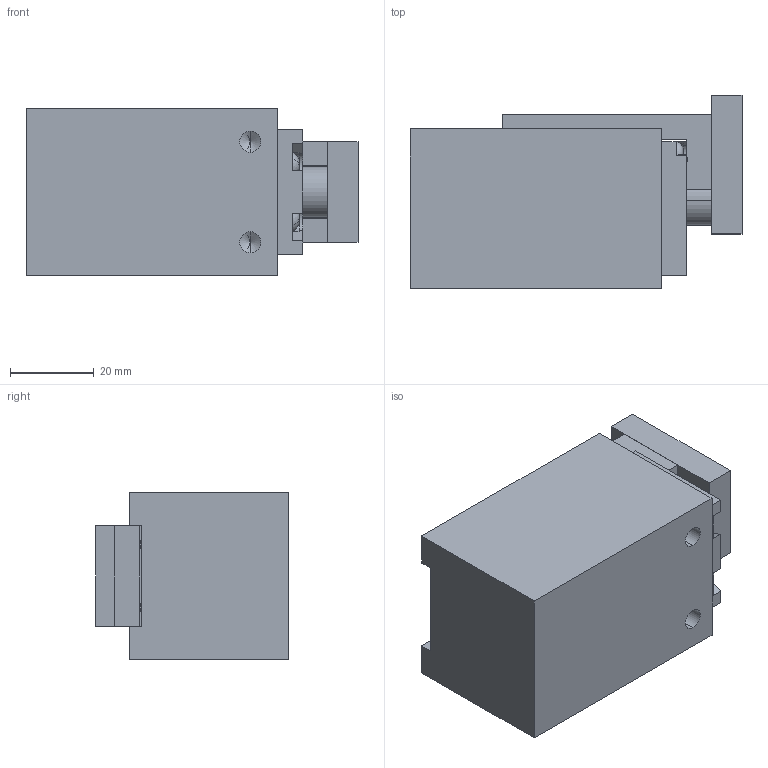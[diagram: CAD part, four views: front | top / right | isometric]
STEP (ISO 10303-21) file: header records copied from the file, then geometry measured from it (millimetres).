
FILE_DESCRIPTION (( 'STEP AP203' ), '1' );
FILE_NAME ('DBSQ-65_Eingefahren.STEP', '2018-05-09T15:29:42', ( '' ), ( '' ), 'SwSTEP 2.0', 'SolidWorks 2016', '' );
FILE_SCHEMA (( 'CONFIG_CONTROL_DESIGN' ));
Length unit declared in the file: millimetre
Products named in the file (1): DBSQ-65_Eingefahren
Bounding box: 79.21 x 46 x 40 mm (x, y, z)
Volume: 105985.8 mm3; surface area: 20677.7 mm2
Topology: 3 solids, 5 shells, 205 faces, 511 edges, 322 vertices
Faces by surface type: plane 124, cylinder 53, cone 20, torus 4, sphere 4
Entity records: 6103 total; most frequent: CARTESIAN_POINT 1109, DIRECTION 1044, ORIENTED_EDGE 1002, EDGE_CURVE 501, AXIS2_PLACEMENT_3D 361, VECTOR 322, VERTEX_POINT 322, LINE 322
